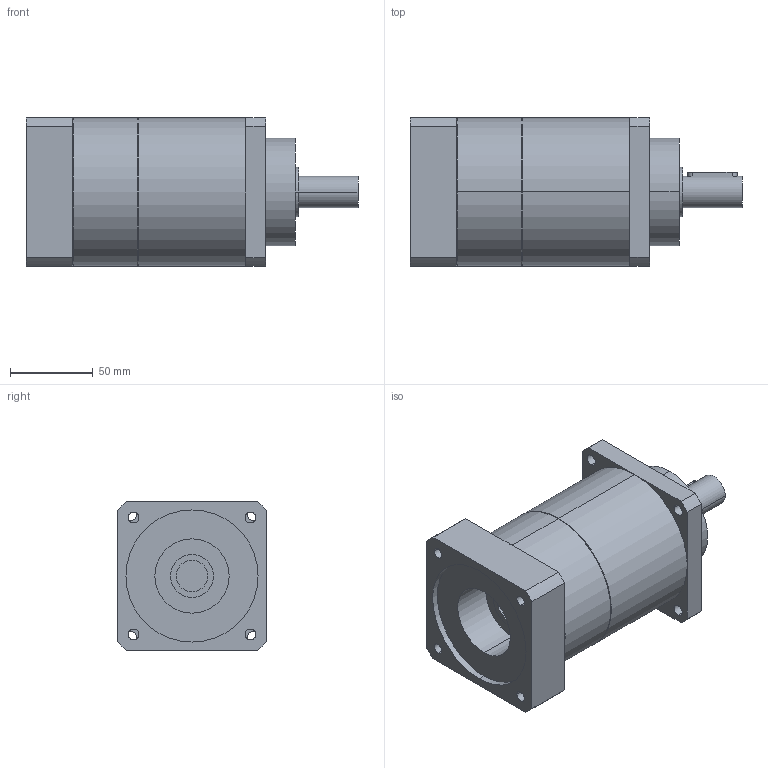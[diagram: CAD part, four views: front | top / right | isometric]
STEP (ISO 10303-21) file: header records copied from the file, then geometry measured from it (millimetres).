
FILE_DESCRIPTION(('CoCreate Modeling STEP Export'),'2;1');
FILE_NAME('GPT90_ig-9-12-16-20-25-28-35-40-50-70-100_19_B5T_19_P28.stp','2015-02-04T11:33:16',(''),(''),'CoCreate Modeling STEP processor for AP214 (Solid Model)','CoCreate Modeling 16.00C 25-Feb-2009 (C) Parametric Technology GmbH','');
FILE_SCHEMA(('AUTOMOTIVE_DESIGN { 1 0 10303 214 1 1 1 1 }'));
Length unit declared in the file: millimetre
Products named in the file (2): GPT90_ig-9-12-16-20-25-28-35-40-50-70-100_19_B5T_19_P28
Assembly tree (1 placements, depth 2):
  GPT90_ig-9-12-16-20-25-28-35-40-50-70-100_19_B5T_19_P28
    GPT90_ig-9-12-16-20-25-28-35-40-50-70-100_19_B5T_19_P28
Bounding box: 201 x 90 x 90 mm (x, y, z)
Volume: 988930.3 mm3; surface area: 79455.4 mm2
Topology: 1 solids, 1 shells, 77 faces, 206 edges, 141 vertices
Faces by surface type: cylinder 46, plane 27, cone 4
Entity records: 2596 total; most frequent: CARTESIAN_POINT 742, ORIENTED_EDGE 412, DIRECTION 324, EDGE_CURVE 206, VERTEX_POINT 141, AXIS2_PLACEMENT_3D 120, EDGE_LOOP 103, VECTOR 84
